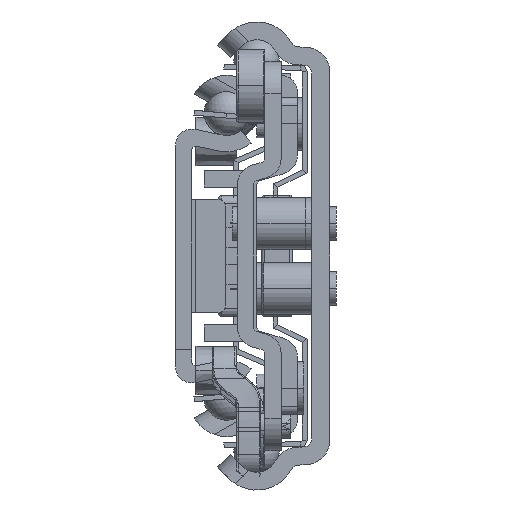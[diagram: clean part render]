
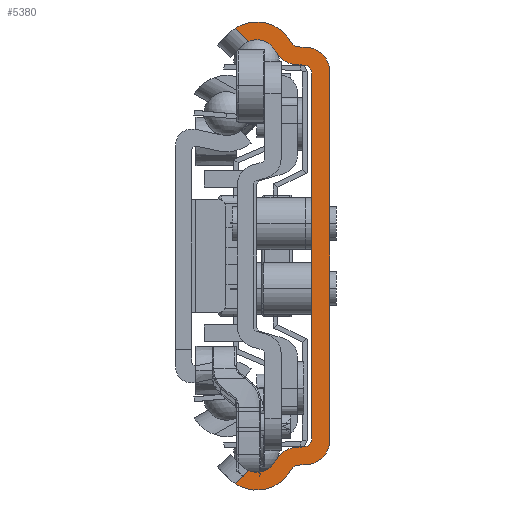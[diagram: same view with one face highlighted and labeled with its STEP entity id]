
A CAD part, left-side view. The second image highlights one B-rep face of the part: STEP entity #5380.
In plain terms, the highlighted planar face has unit normal (-1, 0, 0).
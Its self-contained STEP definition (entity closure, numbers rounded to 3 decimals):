
#1=DIRECTION('',(0.,0.717,-0.697));
#2=VECTOR('',#1,2.305);
#3=CARTESIAN_POINT('',(-475.,9.972,-26.461));
#4=LINE('',#3,#2);
#5=CARTESIAN_POINT('',(-475.,9.,-24.05));
#6=DIRECTION('',(-1.,0.,0.));
#7=DIRECTION('',(0.,0.374,-0.927));
#8=AXIS2_PLACEMENT_3D('',#5,#6,#7);
#10=CARTESIAN_POINT('',(-475.,4.005,-26.582));
#11=DIRECTION('',(-1.,0.,0.));
#12=DIRECTION('',(0.,0.07,0.998));
#13=AXIS2_PLACEMENT_3D('',#10,#11,#12);
#15=DIRECTION('',(0.,-0.998,0.07));
#16=VECTOR('',#15,1.087);
#17=CARTESIAN_POINT('',(-475.,4.214,-23.589));
#18=LINE('',#17,#16);
#19=DIRECTION('',(0.,0.,1.));
#20=VECTOR('',#19,45.032);
#21=CARTESIAN_POINT('',(-475.,2.2,-22.516));
#22=LINE('',#21,#20);
#23=DIRECTION('',(0.,0.998,0.07));
#24=VECTOR('',#23,1.087);
#25=CARTESIAN_POINT('',(-475.,3.13,23.514));
#26=LINE('',#25,#24);
#27=CARTESIAN_POINT('',(-475.,4.005,26.582));
#28=DIRECTION('',(-1.,0.,0.));
#29=DIRECTION('',(0.,0.892,-0.452));
#30=AXIS2_PLACEMENT_3D('',#27,#28,#29);
#32=CARTESIAN_POINT('',(-475.,9.,24.05));
#33=DIRECTION('',(-1.,0.,0.));
#34=DIRECTION('',(0.,-0.892,0.452));
#35=AXIS2_PLACEMENT_3D('',#32,#33,#34);
#37=DIRECTION('',(0.,-0.717,-0.697));
#38=VECTOR('',#37,2.305);
#39=CARTESIAN_POINT('',(-475.,11.624,28.069));
#40=LINE('',#39,#38);
#41=CARTESIAN_POINT('',(-475.,9.,24.05));
#42=DIRECTION('',(1.,0.,0.));
#43=DIRECTION('',(0.,0.547,0.837));
#44=AXIS2_PLACEMENT_3D('',#41,#42,#43);
#46=DIRECTION('',(0.,-0.998,-0.07));
#47=VECTOR('',#46,1.161);
#48=CARTESIAN_POINT('',(-475.,3.949,25.776));
#49=LINE('',#48,#47);
#50=CARTESIAN_POINT('',(-475.,3.,22.702));
#51=DIRECTION('',(-1.,0.,0.));
#52=DIRECTION('',(0.,-1.,0.));
#53=AXIS2_PLACEMENT_3D('',#50,#51,#52);
#55=DIRECTION('',(0.,0.,-1.));
#56=VECTOR('',#55,45.405);
#57=CARTESIAN_POINT('',(-475.,0.,22.702));
#58=LINE('',#57,#56);
#59=CARTESIAN_POINT('',(-475.,3.,-22.702));
#60=DIRECTION('',(-1.,0.,0.));
#61=DIRECTION('',(0.,-0.07,-0.998));
#62=AXIS2_PLACEMENT_3D('',#59,#60,#61);
#64=DIRECTION('',(0.,0.998,-0.07));
#65=VECTOR('',#64,1.161);
#66=CARTESIAN_POINT('',(-475.,2.791,-25.695));
#67=LINE('',#66,#65);
#68=CARTESIAN_POINT('',(-475.,9.,-24.05));
#69=DIRECTION('',(1.,0.,0.));
#70=DIRECTION('',(0.,-0.883,-0.47));
#71=AXIS2_PLACEMENT_3D('',#68,#69,#70);
#79=CARTESIAN_POINT('',(-475.,11.624,-28.069));
#103=CARTESIAN_POINT('',(-475.,9.972,-26.461));
#195=CARTESIAN_POINT('',(-475.,11.624,28.069));
#201=CARTESIAN_POINT('',(-475.,3.879,26.774));
#202=DIRECTION('',(1.,0.,0.));
#203=DIRECTION('',(0.,0.07,-0.998));
#204=AXIS2_PLACEMENT_3D('',#201,#202,#203);
#1227=CARTESIAN_POINT('',(-475.,3.879,-26.774));
#1228=DIRECTION('',(1.,0.,0.));
#1229=DIRECTION('',(0.,0.883,0.47));
#1230=AXIS2_PLACEMENT_3D('',#1227,#1228,#1229);
#2322=CARTESIAN_POINT('',(-475.,3.2,-22.516));
#2323=DIRECTION('',(1.,0.,0.));
#2324=DIRECTION('',(0.,-1.,0.));
#2325=AXIS2_PLACEMENT_3D('',#2322,#2323,#2324);
#2340=CARTESIAN_POINT('',(-475.,3.2,22.516));
#2341=DIRECTION('',(1.,0.,0.));
#2342=DIRECTION('',(0.,-0.07,0.998));
#2343=AXIS2_PLACEMENT_3D('',#2340,#2341,#2342);
#2364=CARTESIAN_POINT('',(-475.,9.972,26.461));
#4197=CARTESIAN_POINT('',(-475.,2.2,-22.516));
#4199=VERTEX_POINT('',#4197);
#4201=CARTESIAN_POINT('',(-475.,3.13,-23.514));
#4203=VERTEX_POINT('',#4201);
#4205=CARTESIAN_POINT('',(-475.,3.13,23.514));
#4207=VERTEX_POINT('',#4205);
#4209=CARTESIAN_POINT('',(-475.,2.2,22.516));
#4211=VERTEX_POINT('',#4209);
#4213=CARTESIAN_POINT('',(-475.,3.949,25.776));
#4215=VERTEX_POINT('',#4213);
#4217=CARTESIAN_POINT('',(-475.,4.762,26.304));
#4219=VERTEX_POINT('',#4217);
#4221=CARTESIAN_POINT('',(-475.,4.762,-26.304));
#4223=VERTEX_POINT('',#4221);
#4225=CARTESIAN_POINT('',(-475.,3.949,-25.776));
#4227=VERTEX_POINT('',#4225);
#4229=CARTESIAN_POINT('',(-475.,4.214,-23.589));
#4230=CARTESIAN_POINT('',(-475.,6.681,-25.226));
#4231=VERTEX_POINT('',#4229);
#4232=VERTEX_POINT('',#4230);
#4237=CARTESIAN_POINT('',(-475.,6.681,25.226));
#4238=CARTESIAN_POINT('',(-475.,4.214,23.589));
#4239=VERTEX_POINT('',#4237);
#4240=VERTEX_POINT('',#4238);
#4245=CARTESIAN_POINT('',(-475.,0.,22.702));
#4246=CARTESIAN_POINT('',(-475.,2.791,25.695));
#4247=VERTEX_POINT('',#4245);
#4248=VERTEX_POINT('',#4246);
#4253=CARTESIAN_POINT('',(-475.,2.791,-25.695));
#4254=CARTESIAN_POINT('',(-475.,0.,-22.702));
#4255=VERTEX_POINT('',#4253);
#4256=VERTEX_POINT('',#4254);
#4603=VERTEX_POINT('',#79);
#4611=VERTEX_POINT('',#103);
#4612=VERTEX_POINT('',#2364);
#4620=VERTEX_POINT('',#195);
#5333=CARTESIAN_POINT('',(-475.,0.,0.));
#5334=DIRECTION('',(1.,0.,0.));
#5335=DIRECTION('',(0.,-1.,0.));
#5336=AXIS2_PLACEMENT_3D('',#5333,#5334,#5335);
#5337=PLANE('',#5336);
#5339=ORIENTED_EDGE('',*,*,#5338,.F.);
#5341=ORIENTED_EDGE('',*,*,#5340,.T.);
#5343=ORIENTED_EDGE('',*,*,#5342,.F.);
#5345=ORIENTED_EDGE('',*,*,#5344,.T.);
#5347=ORIENTED_EDGE('',*,*,#5346,.F.);
#5349=ORIENTED_EDGE('',*,*,#5348,.T.);
#5351=ORIENTED_EDGE('',*,*,#5350,.F.);
#5353=ORIENTED_EDGE('',*,*,#5352,.T.);
#5355=ORIENTED_EDGE('',*,*,#5354,.F.);
#5357=ORIENTED_EDGE('',*,*,#5356,.T.);
#5359=ORIENTED_EDGE('',*,*,#5358,.F.);
#5361=ORIENTED_EDGE('',*,*,#5360,.T.);
#5363=ORIENTED_EDGE('',*,*,#5362,.F.);
#5365=ORIENTED_EDGE('',*,*,#5364,.T.);
#5367=ORIENTED_EDGE('',*,*,#5366,.F.);
#5369=ORIENTED_EDGE('',*,*,#5368,.T.);
#5371=ORIENTED_EDGE('',*,*,#5370,.F.);
#5373=ORIENTED_EDGE('',*,*,#5372,.T.);
#5375=ORIENTED_EDGE('',*,*,#5374,.F.);
#5377=ORIENTED_EDGE('',*,*,#5376,.T.);
#5378=EDGE_LOOP('',(#5339,#5341,#5343,#5345,#5347,#5349,#5351,#5353,#5355,#5357,
#5359,#5361,#5363,#5365,#5367,#5369,#5371,#5373,#5375,#5377));
#5379=FACE_OUTER_BOUND('',#5378,.F.);
#5380=ADVANCED_FACE('',(#5379),#5337,.F.);
#9=CIRCLE('',#8,2.6);
#14=CIRCLE('',#13,3.);
#31=CIRCLE('',#30,3.);
#36=CIRCLE('',#35,2.6);
#45=CIRCLE('',#44,4.8);
#54=CIRCLE('',#53,3.);
#63=CIRCLE('',#62,3.);
#72=CIRCLE('',#71,4.8);
#205=CIRCLE('',#204,1.);
#1231=CIRCLE('',#1230,1.);
#2326=CIRCLE('',#2325,1.);
#2344=CIRCLE('',#2343,1.);
#5338=EDGE_CURVE('',#4611,#4603,#4,.T.);
#5340=EDGE_CURVE('',#4611,#4232,#9,.T.);
#5342=EDGE_CURVE('',#4231,#4232,#14,.T.);
#5344=EDGE_CURVE('',#4231,#4203,#18,.T.);
#5346=EDGE_CURVE('',#4199,#4203,#2326,.T.);
#5348=EDGE_CURVE('',#4199,#4211,#22,.T.);
#5350=EDGE_CURVE('',#4207,#4211,#2344,.T.);
#5352=EDGE_CURVE('',#4207,#4240,#26,.T.);
#5354=EDGE_CURVE('',#4239,#4240,#31,.T.);
#5356=EDGE_CURVE('',#4239,#4612,#36,.T.);
#5358=EDGE_CURVE('',#4620,#4612,#40,.T.);
#5360=EDGE_CURVE('',#4620,#4219,#45,.T.);
#5362=EDGE_CURVE('',#4215,#4219,#205,.T.);
#5364=EDGE_CURVE('',#4215,#4248,#49,.T.);
#5366=EDGE_CURVE('',#4247,#4248,#54,.T.);
#5368=EDGE_CURVE('',#4247,#4256,#58,.T.);
#5370=EDGE_CURVE('',#4255,#4256,#63,.T.);
#5372=EDGE_CURVE('',#4255,#4227,#67,.T.);
#5374=EDGE_CURVE('',#4223,#4227,#1231,.T.);
#5376=EDGE_CURVE('',#4223,#4603,#72,.T.);
